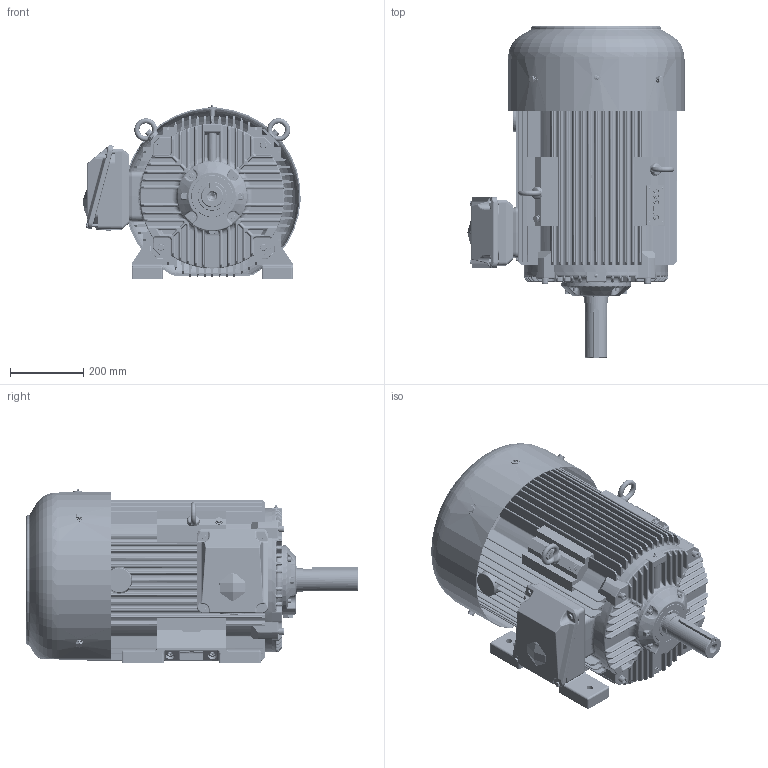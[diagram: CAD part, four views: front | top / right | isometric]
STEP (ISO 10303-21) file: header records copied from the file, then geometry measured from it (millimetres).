
FILE_DESCRIPTION(/* description */ ('Unknown','CAx-IF Rec.Pracs.---Representation and Presentation of Product Manufacturing Information (PMI)---4.0---2014-10-13','CAx-IF Rec.Pracs.---3D Tessellated Geometry---0.4---2014-09-14','2;1'),/* implementation_level */ '2;1');
FILE_NAME(/* name */ 'Silnik NEMA SIE360T4_6 - do klienta',/* time_stamp */ '2024-07-08T08:35:33+02:00',/* author */ ('Unknown'),/* organization */ ('Unknown'),/* preprocessor_version */ 'ST-DEVELOPER v16.7',/* originating_system */ 'DEX',/* authorisation */ $);
FILE_SCHEMA (('AP242_MANAGED_MODEL_BASED_3D_ENGINEERING_MIM_LF { 1 0 10303 442 20130219 1 4 }'));
Length unit declared in the file: millimetre
Products named in the file (1): Silnik NEMA SIE360T4_6 - do klienta
Bounding box: 592.5 x 904.9 x 473 mm (x, y, z)
Volume: 41700198 mm3; surface area: 5766371.4 mm2
Topology: 1 solids, 39 shells, 9949 faces, 26485 edges, 16352 vertices
Faces by surface type: plane 5404, cylinder 2071, bspline 1051, torus 765, sphere 348, cone 310
Full cylindrical faces by diameter (mm): 1.6 x2, 2.5 x2, 3 x10, 3.5 x4, 4.134 x2, 4.917 x3, 5 x4, 6 x5, 6.3 x1, 6.4 x2, 6.466 x8, 6.647 x12, 8 x26, 8.376 x7, 8.5 x1, 8.917 x2, 9 x12, 9.853 x8, 10 x22, 10.106 x9, 10.5 x5, 11.63 x1, 12 x16, 13 x10, 13.546 x4, 13.835 x8, 14 x10, 14.63 x1, 16 x8, 17.294 x1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
Entity records: 418153 total; most frequent: CARTESIAN_POINT 109427, ORIENTED_EDGE 50276, DIRECTION 47191, EDGE_CURVE 25138, VERTEX_POINT 15950, AXIS2_PLACEMENT_3D 15903, LINE 15385, VECTOR 15385
